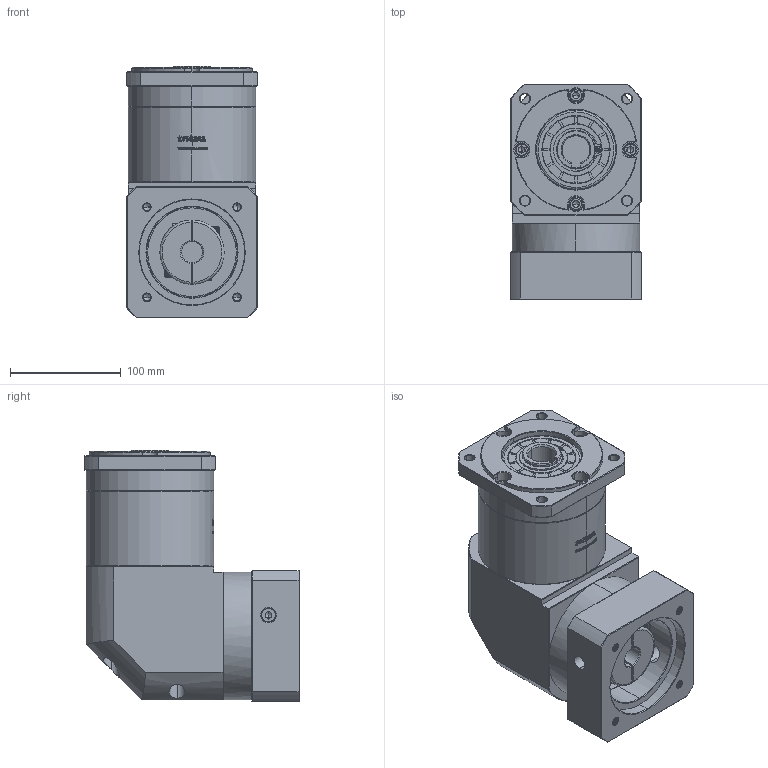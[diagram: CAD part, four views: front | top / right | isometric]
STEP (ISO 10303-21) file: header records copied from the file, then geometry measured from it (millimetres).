
FILE_DESCRIPTION (( 'STEP AP214' ), '1' );
FILE_NAME ('ZFR120A-K25-L2-19-95-115-M8.step', '2023-03-08T08:31:10', ( '' ), ( '' ), 'SwSTEP 2.0', 'SolidWorks 2016', '' );
FILE_SCHEMA (( 'AUTOMOTIVE_DESIGN' ));
Length unit declared in the file: millimetre
Products named in the file (1): ZFR120A-K25-L2-19-95-115-M8
Bounding box: 118 x 193.9 x 226.5 mm (x, y, z)
Volume: 3149985.8 mm3; surface area: 252164.5 mm2
Topology: 6 solids, 6 shells, 2813 faces, 7536 edges, 4868 vertices
Faces by surface type: plane 1477, bspline 597, cylinder 401, cone 330, torus 8
Entity records: 152477 total; most frequent: CARTESIAN_POINT 56820, ORIENTED_EDGE 15016, DIRECTION 10945, EDGE_CURVE 7508, VERTEX_POINT 4868, VECTOR 4695, LINE 4695, AXIS2_PLACEMENT_3D 3125
